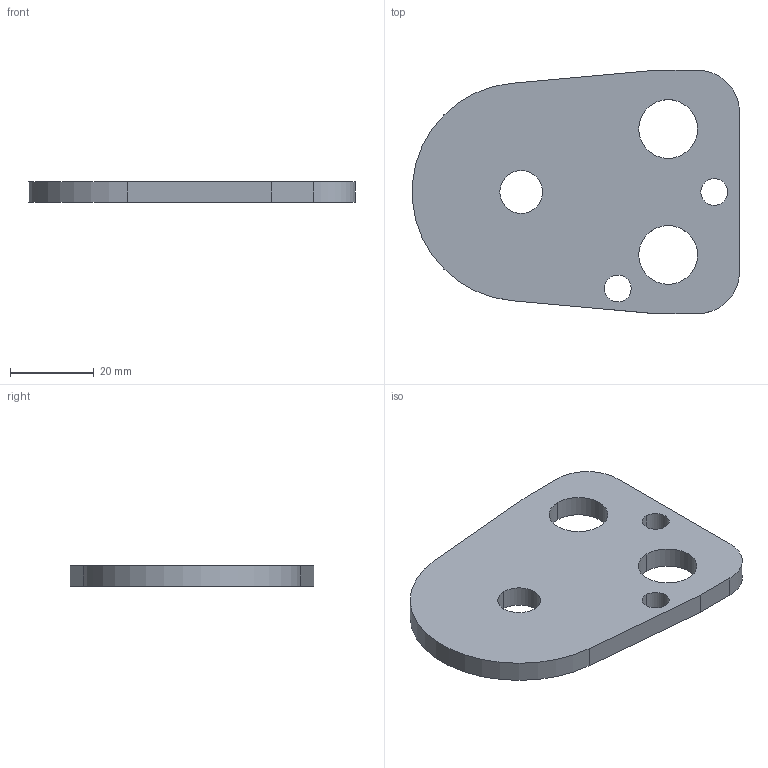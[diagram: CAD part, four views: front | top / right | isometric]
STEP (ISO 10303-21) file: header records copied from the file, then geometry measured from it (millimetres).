
FILE_DESCRIPTION(/* description */ (''),/* implementation_level */ '2;1');
FILE_NAME(/* name */ '3d_bpc38_03421_r00.stp',/* time_stamp */ '2011-01-10T14:17:09+09:00',/* author */ ('MISUMI'),/* organization */ (''),/* preprocessor_version */ 'ST-DEVELOPER v11',/* originating_system */ 'UGS - NX 5.0',/* authorisation */ '');
FILE_SCHEMA (('CONFIG_CONTROL_DESIGN'));
Length unit declared in the file: millimetre
Products named in the file (1): 3d_bpc38_03421_r00
Bounding box: 77.9 x 58 x 5 mm (x, y, z)
Volume: 17442.9 mm3; surface area: 8955.1 mm2
Topology: 1 solids, 1 shells, 20 faces, 54 edges, 36 vertices
Faces by surface type: cylinder 13, plane 7
Entity records: 750 total; most frequent: DIRECTION 122, CARTESIAN_POINT 111, ORIENTED_EDGE 108, EDGE_CURVE 54, AXIS2_PLACEMENT_3D 47, VERTEX_POINT 36, EDGE_LOOP 30, LINE 28
